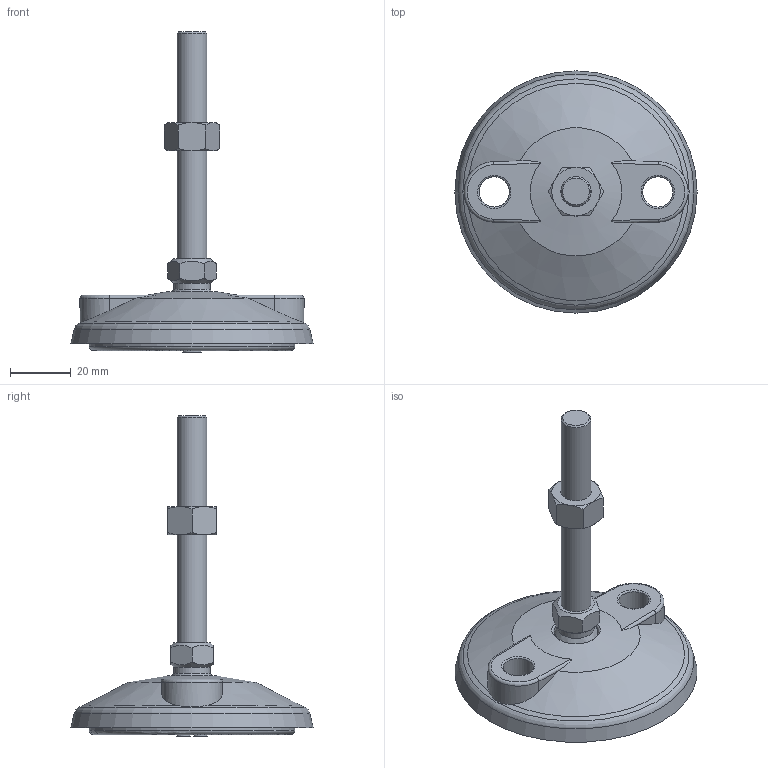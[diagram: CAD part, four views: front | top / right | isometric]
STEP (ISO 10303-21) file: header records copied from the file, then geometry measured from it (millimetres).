
FILE_DESCRIPTION(/* description */ (''),/* implementation_level */ '2;1');
FILE_NAME(/* name */ 'Articulating Anti-slip Levelling Foot - Nylon 80mm - M10 - 75mm.step',/* time_stamp */ '2025-10-14T15:52:29+03:00',/* author */ (''),/* organization */ (''),/* preprocessor_version */ 'ST-DEVELOPER v20.1',/* originating_system */ 'Autodesk Translation Framework v14.17.0.0',/* authorisation */ '');
FILE_SCHEMA (('AUTOMOTIVE_DESIGN { 1 0 10303 214 3 1 1 }'));
Length unit declared in the file: millimetre
Products named in the file (7): Articulating Anti-slip Levelling Foot - Nylon 80mm - M10 - 75mm; Articulating Levelling Foot Stud - M10 - 75mm; hex nut style 2_am_B18.2.4.2M - Hex nut, Style 2,  M10 x 1.5, with 16
mm WAF --D-N; Articulating Levelling Foot Stud - M10 - 75mm_1; 340-010BA-01_ASM; 340-0101B-01; 340-1003B-01
Assembly tree (6 placements, depth 3):
  Articulating Anti-slip Levelling Foot - Nylon 80mm - M10 - 75mm
    Articulating Levelling Foot Stud - M10 - 75mm
      hex nut style 2_am_B18.2.4.2M - Hex nut, Style 2,  M10 x 1.5, with 16
mm WAF --D-N
      Articulating Levelling Foot Stud - M10 - 75mm_1
    340-010BA-01_ASM
      340-0101B-01
      340-1003B-01
Bounding box: 80 x 80 x 105.82 mm (x, y, z)
Volume: 63029.5 mm3; surface area: 33586 mm2
Topology: 4 solids, 4 shells, 369 faces, 1053 edges, 688 vertices
Faces by surface type: plane 246, cylinder 74, cone 40, torus 7, bspline 1, sphere 1
Full cylindrical faces by diameter (mm): 4 x2, 7 x2, 8.526 x1, 9.85 x1, 10 x3, 11 x2, 12.1 x1, 12.166 x1, 14.7 x2, 15 x1, 16 x1, 40 x1, 68 x1, 68.8 x1
Entity records: 12954 total; most frequent: CARTESIAN_POINT 3193, ORIENTED_EDGE 2102, DIRECTION 1948, EDGE_CURVE 1051, VERTEX_POINT 688, AXIS2_PLACEMENT_3D 668, LINE 612, VECTOR 612
